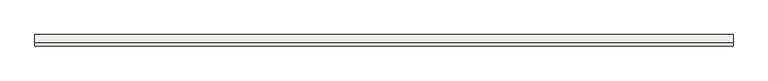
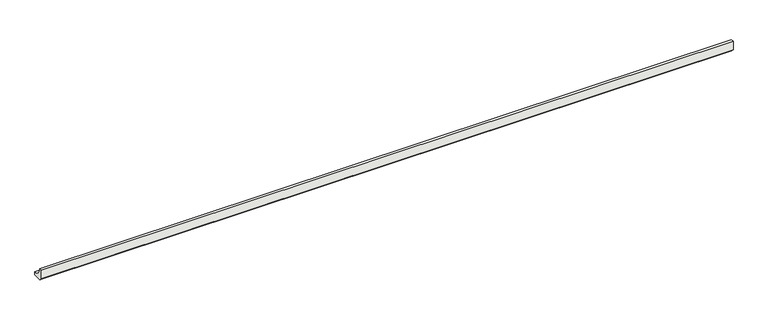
"""IFC4 building model written with IfcOpenShell, lengths in millimetres: slab geometry, ROSA GRES_112 : Pieza 112_Aqua_Plomo_Liso."""

from ifc_helpers import new_model, si_unit, point, frame, frame_2d, origin, place, context, project, spatial, polyline, circle_curve, trimmed, segment, composite_curve, outline, extrude, source, transform, mapped, element, save


def slab_68191908(model_context):
    return source(origin(), model_context, "Body", "SweptSolid", [
        extrude(outline(composite_curve([segment(polyline([(0.0, 8.7114978), (0.0, 40.0), (9.9734114, 40.0)]), True, "CONTINUOUS"), segment(trimmed(circle_curve(frame_2d((39.9955547, 39.9955547)), 30.0221435), [point((9.9734114, 40.0))], [point((40.0, 9.9734114))], True, "CARTESIAN"), True, "CONTINUOUS"), segment(polyline([(40.0, 9.9734114), (40.0, 0.0), (8.7114978, 0.0), (0.0, 8.7114978)]), True, "CONTINUOUS")], self_intersect=False)), frame((0.0, 0.0, 0.0), z_axis=(1.0, 0.0, 0.0), x_axis=(0.0, 1.0, 0.0)), (0.0, 0.0, 1.0), 2468.1912665),
    ])


if __name__ == "__main__":
    model = new_model("IFC4")
    model_context = context("Model", 3, world=origin())
    ifc_project = project(units=[si_unit("LENGTHUNIT", "METRE", prefix="MILLI")], contexts=[model_context])
    site = spatial("IfcSite", under=ifc_project)
    building = spatial("IfcBuilding", under=site)
    placement = place(None, origin())
    slab_shape = slab_68191908(model_context)
    element("IfcSlab", 1, ObjectType="ROSA GRES_112 : Pieza 112_Aqua_Plomo_Liso", at=placement, inside=building, context=model_context, shape_type="MappedRepresentation", body=[
        mapped(slab_shape, transform((0.0, 0.0, 0.0), x_axis=(1.0, 0.0, 0.0), y_axis=(0.0, 1.0, 0.0), z_axis=(0.0, 0.0, 1.0))),
    ])
    save(model, "model.ifc")
